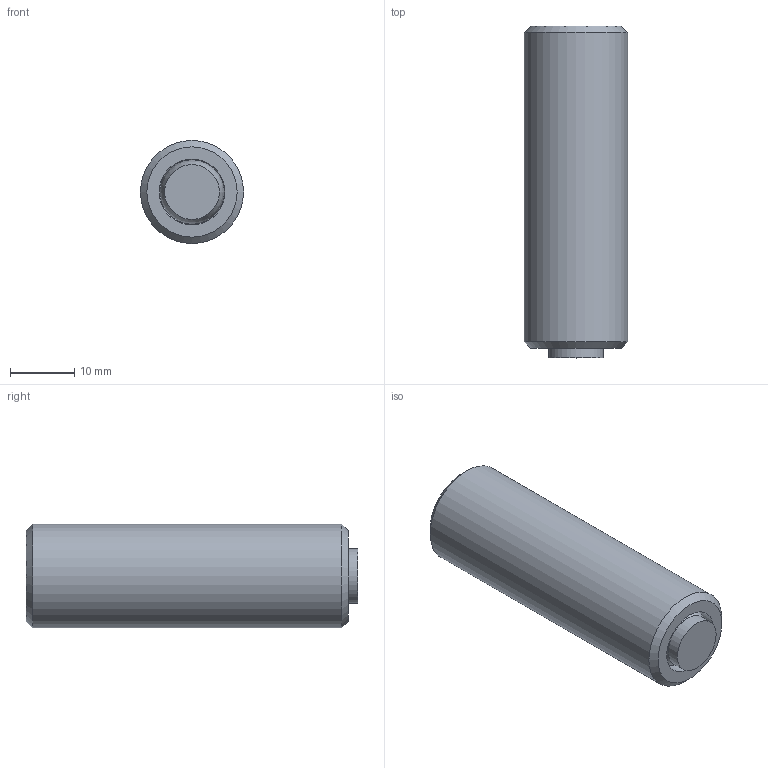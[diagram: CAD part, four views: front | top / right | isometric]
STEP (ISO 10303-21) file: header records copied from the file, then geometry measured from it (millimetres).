
FILE_DESCRIPTION( ( 'STEP AP203' ), '1' );
FILE_NAME( 'C:/Temp/Ganter_Step_05_03_2020/data/3_2/gn_709_8/gn_709_8b/Clamping pad GN 709.8-M16-50-B (0).stp', '2020-03-13T05:38:01', ( 'License CC BY-ND 4.0' ), ( 'CADENAS' ), ' ', 'PARTsolutions', ' ' );
FILE_SCHEMA( ( 'CONFIG_CONTROL_DESIGN' ) );
Length unit declared in the file: millimetre
Products named in the file (3): Clamping pad GN 709.8-M16-50-B (0); _Pendelelement GN 709.8-M16-50-B-1; _Pendelelement GN 709.8-M16-50-B-2
Assembly tree (2 placements, depth 2):
  Clamping pad GN 709.8-M16-50-B (0)
    _Pendelelement GN 709.8-M16-50-B-1
    _Pendelelement GN 709.8-M16-50-B-2
Bounding box: 16 x 51.5 x 16 mm (x, y, z)
Volume: 9589.8 mm3; surface area: 3602.6 mm2
Topology: 2 solids, 2 shells, 18 faces, 36 edges, 23 vertices
Faces by surface type: plane 11, cone 3, cylinder 3, sphere 1
Full cylindrical faces by diameter (mm): 8.5 x1, 10.18 x1, 16 x1
Entity records: 524 total; most frequent: DIRECTION 78, CARTESIAN_POINT 70, ORIENTED_EDGE 54, AXIS2_PLACEMENT_3D 30, EDGE_CURVE 27, EDGE_LOOP 26, VERTEX_POINT 22, FACE_OUTER_BOUND 21
